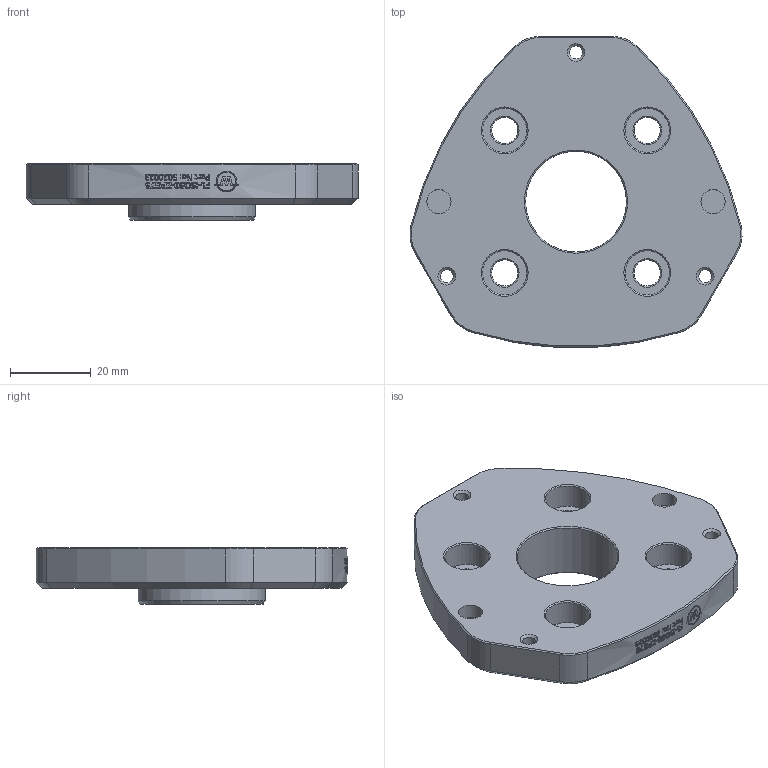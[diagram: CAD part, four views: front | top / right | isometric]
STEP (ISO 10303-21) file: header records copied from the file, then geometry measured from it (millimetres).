
FILE_DESCRIPTION((''),'2;1');
FILE_SCHEMA(('AUTOMOTIVE_DESIGN { 1 0 10303 214 1 1 1 1 }'));
Length unit declared in the file: millimetre
Products named in the file (1): FL-ISO50-ZPG75 - CUSTOMER
Bounding box: 82.35 x 77.21 x 14 mm (x, y, z)
Volume: 40602.9 mm3; surface area: 13951.4 mm2
Topology: 1 solids, 1 shells, 511 faces, 1329 edges, 872 vertices
Faces by surface type: bspline 319, plane 104, cylinder 52, cone 36
Full cylindrical faces by diameter (mm): 25 x1, 31.5 x1
Entity records: 164046 total; most frequent: CARTESIAN_POINT 153740, ORIENTED_EDGE 2572, EDGE_CURVE 1286, DIRECTION 1166, VERTEX_POINT 869, B_SPLINE_CURVE_WITH_KNOTS 661, EDGE_LOOP 619, FACE_OUTER_BOUND 511
